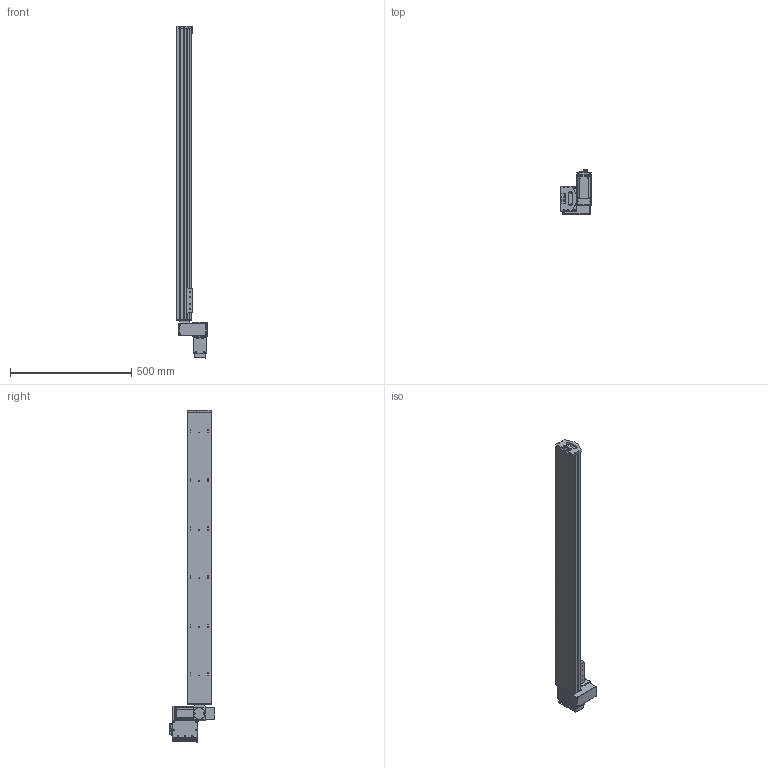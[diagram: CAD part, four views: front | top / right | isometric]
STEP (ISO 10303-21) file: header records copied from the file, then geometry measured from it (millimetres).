
FILE_DESCRIPTION (( 'STEP AP203' ), '1' );
FILE_NAME ('S10 TBN LT S1200.STEP', '2012-06-19T12:55:50', ( 'Conseil Régional Haute-Normandie' ), ( 'Conseil Régional Haute-Normandie' ), 'SwSTEP 2.0', 'SolidWorks 2010', '' );
FILE_SCHEMA (( 'CONFIG_CONTROL_DESIGN' ));
Length unit declared in the file: millimetre
Products named in the file (25): palette tbn; plaque de bout s10_Default; Plaque racord_Default; T_X2_00F4_X0_le contre le moteur_5; T_X2_00F4_X0_le fond_3; BU41 Carte Alimentation P05_3; Connecteur rond D10 3cts_5; Connecteur rond D12 4cts_5; Vis TF 3 torkx_1_1; T_X2_00F4_X0_le lat_X2_00E9_X0_rale_5; S10 TBN LT S1200; cache t皻e axe_Default; embout; renvoi LH_Default; axe 1200; cache t皻e_Default; Assem1_7; Colonnette_3; BU45 Carte d''axe A11_5; Moteur 60BLDC90A_3; Couvercle_3; Sub D 9cts 90_X2_00B_X0__3; Radiateur profil_X2_00E9_X0_ 100x25_3; Colonnette ronde_3; T_X2_00F4_X0_le Arri_X2_00E8_X0_re_5
Assembly tree (48 placements, depth 3):
  S10 TBN LT S1200
    palette tbn
    cache t皻e_Default  x2
    Plaque racord_Default
    plaque de bout s10_Default
    axe 1200
    embout
    Assem1_7
      T_X2_00F4_X0_le contre le moteur_5
      Vis TF 3 torkx_1_1  x21
      Connecteur rond D10 3cts_5  x2
      T_X2_00F4_X0_le lat_X2_00E9_X0_rale_5  x2
      T_X2_00F4_X0_le fond_3
      Colonnette_3  x2
      Couvercle_3
      BU41 Carte Alimentation P05_3
      Colonnette ronde_3
      Moteur 60BLDC90A_3
      Connecteur rond D12 4cts_5
      Sub D 9cts 90_X2_00B_X0__3
      Radiateur profil_X2_00E9_X0_ 100x25_3
      BU45 Carte d''axe A11_5
      T_X2_00F4_X0_le Arri_X2_00E8_X0_re_5
    cache t皻e axe_Default
    renvoi LH_Default
Bounding box: 127 x 186.1 x 1366.5 mm (x, y, z)
Volume: 7102499.4 mm3; surface area: 895023.2 mm2
Topology: 47 solids, 47 shells, 1959 faces, 4994 edges, 3247 vertices
Faces by surface type: cylinder 918, plane 872, cone 154, bspline 12, torus 3
Entity records: 44199 total; most frequent: CARTESIAN_POINT 8012, DIRECTION 7209, ORIENTED_EDGE 6568, EDGE_CURVE 3284, AXIS2_PLACEMENT_3D 2683, VERTEX_POINT 2151, VECTOR 1843, LINE 1843
